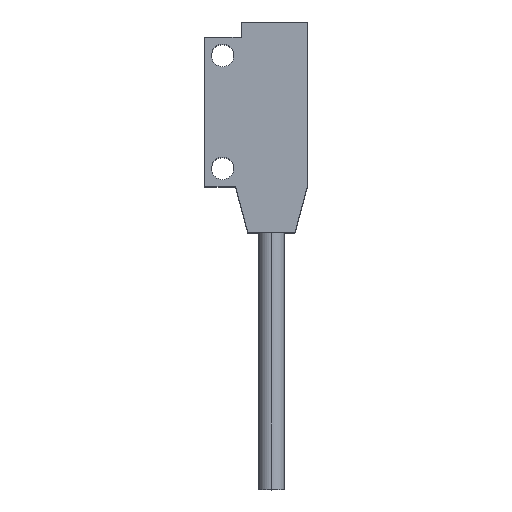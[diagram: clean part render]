
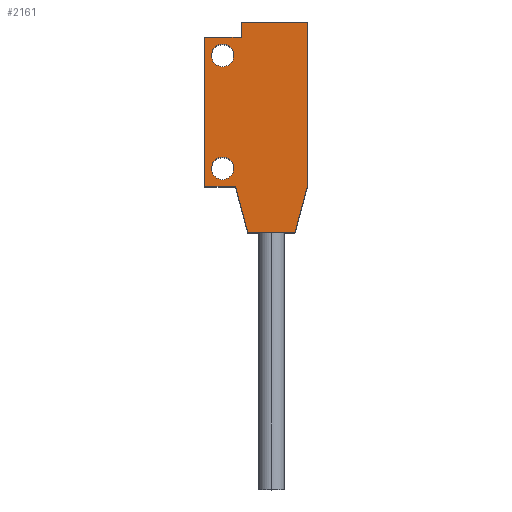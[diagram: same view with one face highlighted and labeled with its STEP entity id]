
A CAD part, top view. The second image highlights one B-rep face of the part: STEP entity #2161.
In plain terms, the highlighted planar face has unit normal (0, 0, 1).
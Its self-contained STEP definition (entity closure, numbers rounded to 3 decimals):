
#664 = CARTESIAN_POINT ( 'NONE',  ( -4.4, -7., 3.5 ) ) ;
#690 = LINE ( 'NONE', #692, #691 ) ;
#691 = VECTOR ( 'NONE', #755, 1000. ) ;
#692 = CARTESIAN_POINT ( 'NONE',  ( 2.75, -8.75, 3.5 ) ) ;
#701 = CARTESIAN_POINT ( 'NONE',  ( -4.4, 4., 3.5 ) ) ;
#702 = DIRECTION ( 'NONE',  ( 1., 0., 0. ) ) ;
#703 = DIRECTION ( 'NONE',  ( 0., 0., 1. ) ) ;
#704 = CARTESIAN_POINT ( 'NONE',  ( -5.5, 4., 3.5 ) ) ;
#705 = AXIS2_PLACEMENT_3D ( 'NONE', #704, #703, #702 ) ;
#706 = CIRCLE ( 'NONE', #705, 1.1 ) ;
#707 = CARTESIAN_POINT ( 'NONE',  ( -6.6, 4., 3.5 ) ) ;
#755 = DIRECTION ( 'NONE',  ( 0.259, 0.966, 0. ) ) ;
#757 = DIRECTION ( 'NONE',  ( 1., 0., 0. ) ) ;
#758 = DIRECTION ( 'NONE',  ( 0., 0., 1. ) ) ;
#759 = CARTESIAN_POINT ( 'NONE',  ( -5.5, -7., 3.5 ) ) ;
#760 = AXIS2_PLACEMENT_3D ( 'NONE', #759, #758, #757 ) ;
#761 = CIRCLE ( 'NONE', #760, 1.1 ) ;
#763 = CARTESIAN_POINT ( 'NONE',  ( -6.6, -7., 3.5 ) ) ;
#820 = CARTESIAN_POINT ( 'NONE',  ( -3.7, 7.25, 3.5 ) ) ;
#860 = CARTESIAN_POINT ( 'NONE',  ( 2.75, -8.75, 3.5 ) ) ;
#876 = DIRECTION ( 'NONE',  ( 1., 0., 0. ) ) ;
#877 = VECTOR ( 'NONE', #876, 1000. ) ;
#878 = CARTESIAN_POINT ( 'NONE',  ( 1.544, -13.25, 3.5 ) ) ;
#879 = LINE ( 'NONE', #878, #877 ) ;
#880 = CARTESIAN_POINT ( 'NONE',  ( 2.75, 7.25, 3.5 ) ) ;
#881 = DIRECTION ( 'NONE',  ( -1., 0., 0. ) ) ;
#882 = VECTOR ( 'NONE', #881, 1000. ) ;
#883 = CARTESIAN_POINT ( 'NONE',  ( -7.25, 7.25, 3.5 ) ) ;
#884 = LINE ( 'NONE', #883, #882 ) ;
#895 = CARTESIAN_POINT ( 'NONE',  ( 1.544, -13.25, 3.5 ) ) ;
#928 = CARTESIAN_POINT ( 'NONE',  ( -7.25, -8.75, 3.5 ) ) ;
#929 = CARTESIAN_POINT ( 'NONE',  ( -7.25, 5.75, 3.5 ) ) ;
#930 = DIRECTION ( 'NONE',  ( 0., -1., 0. ) ) ;
#931 = VECTOR ( 'NONE', #930, 1000. ) ;
#932 = CARTESIAN_POINT ( 'NONE',  ( -7.25, 7.25, 3.5 ) ) ;
#933 = LINE ( 'NONE', #932, #931 ) ;
#956 = CARTESIAN_POINT ( 'NONE',  ( -4.25, -8.75, 3.5 ) ) ;
#957 = DIRECTION ( 'NONE',  ( 0.259, -0.966, 0. ) ) ;
#958 = VECTOR ( 'NONE', #957, 1000. ) ;
#959 = CARTESIAN_POINT ( 'NONE',  ( -3.044, -13.25, 3.5 ) ) ;
#960 = LINE ( 'NONE', #959, #958 ) ;
#961 = CARTESIAN_POINT ( 'NONE',  ( -3.044, -13.25, 3.5 ) ) ;
#972 = DIRECTION ( 'NONE',  ( 1., 0., 0. ) ) ;
#973 = VECTOR ( 'NONE', #972, 1000. ) ;
#974 = CARTESIAN_POINT ( 'NONE',  ( -7.7, 5.75, 3.5 ) ) ;
#975 = LINE ( 'NONE', #974, #973 ) ;
#1061 = DIRECTION ( 'NONE',  ( 1., 0., 0. ) ) ;
#1062 = DIRECTION ( 'NONE',  ( 0., 0., 1. ) ) ;
#1063 = CARTESIAN_POINT ( 'NONE',  ( -5.5, 4., 3.5 ) ) ;
#1064 = AXIS2_PLACEMENT_3D ( 'NONE', #1063, #1062, #1061 ) ;
#1065 = CIRCLE ( 'NONE', #1064, 1.1 ) ;
#1066 = DIRECTION ( 'NONE',  ( 1., 0., 0. ) ) ;
#1067 = DIRECTION ( 'NONE',  ( 0., 0., 1. ) ) ;
#1068 = AXIS2_PLACEMENT_3D ( 'NONE', #1074, #1067, #1066 ) ;
#1069 = CIRCLE ( 'NONE', #1068, 1.1 ) ;
#1074 = CARTESIAN_POINT ( 'NONE',  ( -5.5, -7., 3.5 ) ) ;
#1080 = DIRECTION ( 'NONE',  ( 0., 1., 0. ) ) ;
#1081 = VECTOR ( 'NONE', #1080, 1000. ) ;
#1082 = CARTESIAN_POINT ( 'NONE',  ( 2.75, 7.25, 3.5 ) ) ;
#1083 = LINE ( 'NONE', #1082, #1081 ) ;
#1090 = DIRECTION ( 'NONE',  ( 1., 0., 0. ) ) ;
#1091 = VECTOR ( 'NONE', #1090, 1000. ) ;
#1092 = CARTESIAN_POINT ( 'NONE',  ( -7.25, -8.75, 3.5 ) ) ;
#1093 = LINE ( 'NONE', #1092, #1091 ) ;
#1131 = CARTESIAN_POINT ( 'NONE',  ( -3.7, 5.75, 3.5 ) ) ;
#1132 = DIRECTION ( 'NONE',  ( 0., 1., 0. ) ) ;
#1133 = VECTOR ( 'NONE', #1132, 1000. ) ;
#1134 = CARTESIAN_POINT ( 'NONE',  ( -3.7, 7.75, 3.5 ) ) ;
#1135 = LINE ( 'NONE', #1134, #1133 ) ;
#1136 = DIRECTION ( 'NONE',  ( 1., 0., 0. ) ) ;
#1137 = DIRECTION ( 'NONE',  ( 0., 0., 1. ) ) ;
#1138 = CARTESIAN_POINT ( 'NONE',  ( -7.25, -8.75, 3.5 ) ) ;
#1139 = AXIS2_PLACEMENT_3D ( 'NONE', #1138, #1137, #1136 ) ;
#1140 = PLANE ( 'NONE',  #1139 ) ;
#1141 = FACE_BOUND ( 'NONE', #2131, .T. ) ;
#1142 = FACE_BOUND ( 'NONE', #2068, .T. ) ;
#1143 = FACE_OUTER_BOUND ( 'NONE', #2162, .T. ) ;
#1904 = VERTEX_POINT ( 'NONE', #664 ) ;
#1915 = VERTEX_POINT ( 'NONE', #707 ) ;
#1917 = EDGE_CURVE ( 'NONE', #1915, #1918, #706, .T. ) ;
#1918 = VERTEX_POINT ( 'NONE', #701 ) ;
#1928 = EDGE_CURVE ( 'NONE', #2025, #2008, #690, .T. ) ;
#1956 = VERTEX_POINT ( 'NONE', #763 ) ;
#1958 = EDGE_CURVE ( 'NONE', #1956, #1904, #761, .T. ) ;
#1995 = VERTEX_POINT ( 'NONE', #820 ) ;
#1997 = EDGE_CURVE ( 'NONE', #1998, #1995, #884, .T. ) ;
#1998 = VERTEX_POINT ( 'NONE', #880 ) ;
#1999 = EDGE_CURVE ( 'NONE', #2076, #2025, #879, .T. ) ;
#2008 = VERTEX_POINT ( 'NONE', #860 ) ;
#2025 = VERTEX_POINT ( 'NONE', #895 ) ;
#2045 = EDGE_CURVE ( 'NONE', #2046, #2047, #933, .T. ) ;
#2046 = VERTEX_POINT ( 'NONE', #929 ) ;
#2047 = VERTEX_POINT ( 'NONE', #928 ) ;
#2060 = EDGE_CURVE ( 'NONE', #2046, #2165, #975, .T. ) ;
#2061 = ORIENTED_EDGE ( 'NONE', *, *, #2045, .T. ) ;
#2062 = ORIENTED_EDGE ( 'NONE', *, *, #2151, .T. ) ;
#2063 = ORIENTED_EDGE ( 'NONE', *, *, #2078, .T. ) ;
#2064 = ORIENTED_EDGE ( 'NONE', *, *, #1999, .T. ) ;
#2065 = ORIENTED_EDGE ( 'NONE', *, *, #1928, .T. ) ;
#2066 = ORIENTED_EDGE ( 'NONE', *, *, #2157, .T. ) ;
#2067 = ORIENTED_EDGE ( 'NONE', *, *, #1997, .T. ) ;
#2068 = EDGE_LOOP ( 'NONE', ( #2069, #2130 ) ) ;
#2069 = ORIENTED_EDGE ( 'NONE', *, *, #2129, .F. ) ;
#2076 = VERTEX_POINT ( 'NONE', #961 ) ;
#2078 = EDGE_CURVE ( 'NONE', #2079, #2076, #960, .T. ) ;
#2079 = VERTEX_POINT ( 'NONE', #956 ) ;
#2129 = EDGE_CURVE ( 'NONE', #1904, #1956, #1069, .T. ) ;
#2130 = ORIENTED_EDGE ( 'NONE', *, *, #1958, .F. ) ;
#2131 = EDGE_LOOP ( 'NONE', ( #2132, #2134 ) ) ;
#2132 = ORIENTED_EDGE ( 'NONE', *, *, #2133, .F. ) ;
#2133 = EDGE_CURVE ( 'NONE', #1918, #1915, #1065, .T. ) ;
#2134 = ORIENTED_EDGE ( 'NONE', *, *, #1917, .F. ) ;
#2151 = EDGE_CURVE ( 'NONE', #2047, #2079, #1093, .T. ) ;
#2157 = EDGE_CURVE ( 'NONE', #2008, #1998, #1083, .T. ) ;
#2161 = ADVANCED_FACE ( 'NONE', ( #1143, #1142, #1141 ), #1140, .T. ) ;
#2162 = EDGE_LOOP ( 'NONE', ( #2163, #2166, #2061, #2062, #2063, #2064, #2065, #2066, #2067 ) ) ;
#2163 = ORIENTED_EDGE ( 'NONE', *, *, #2164, .F. ) ;
#2164 = EDGE_CURVE ( 'NONE', #2165, #1995, #1135, .T. ) ;
#2165 = VERTEX_POINT ( 'NONE', #1131 ) ;
#2166 = ORIENTED_EDGE ( 'NONE', *, *, #2060, .F. ) ;
